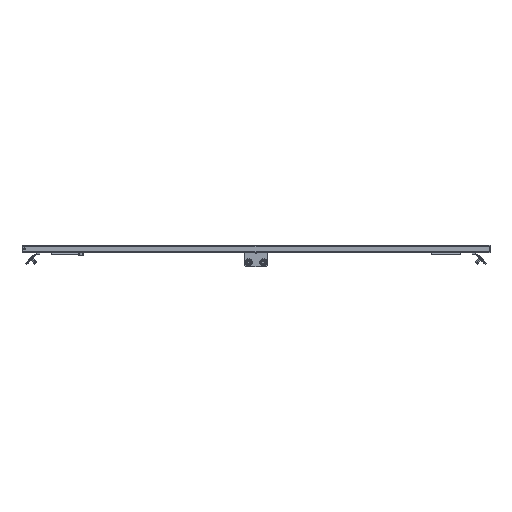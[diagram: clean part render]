
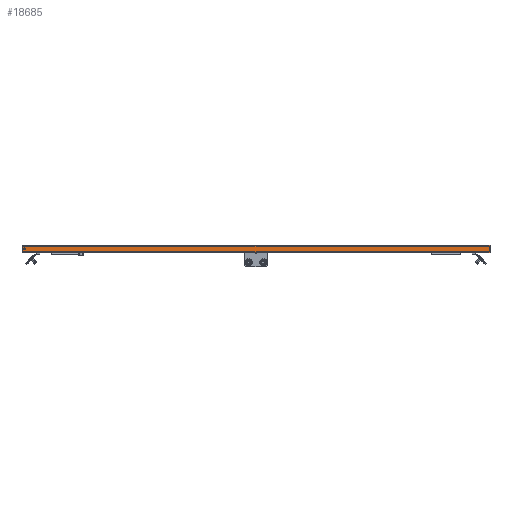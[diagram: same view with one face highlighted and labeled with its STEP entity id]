
A CAD part, front view. The second image highlights one B-rep face of the part: STEP entity #18685.
In plain terms, the highlighted planar face has unit normal (0, -1, 0).
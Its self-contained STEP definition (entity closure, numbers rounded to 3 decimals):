
#2615 = VERTEX_POINT ( 'NONE', #44700 ) ;
#2812 = CARTESIAN_POINT ( 'NONE',  ( 0., -1000., 1.4 ) ) ;
#5660 = EDGE_CURVE ( 'NONE', #14026, #23067, #46839, .T. ) ;
#5679 = DIRECTION ( 'NONE',  ( 0., 0., -1. ) ) ;
#7874 = CARTESIAN_POINT ( 'NONE',  ( -397.5, -1000., -10.6 ) ) ;
#9514 = FACE_OUTER_BOUND ( 'NONE', #41020, .T. ) ;
#9785 = PLANE ( 'NONE',  #41498 ) ;
#10616 = EDGE_LOOP ( 'NONE', ( #29677, #47271 ) ) ;
#10833 = ORIENTED_EDGE ( 'NONE', *, *, #50512, .T. ) ;
#10846 = VERTEX_POINT ( 'NONE', #42824 ) ;
#11509 = CARTESIAN_POINT ( 'NONE',  ( -392.5, -1000., -4.6 ) ) ;
#12179 = CARTESIAN_POINT ( 'NONE',  ( -392.5, -1000., -6.3 ) ) ;
#14026 = VERTEX_POINT ( 'NONE', #7874 ) ;
#14882 = DIRECTION ( 'NONE',  ( 0., 0., -1. ) ) ;
#15117 = DIRECTION ( 'NONE',  ( 0., 0., -1. ) ) ;
#15901 = VERTEX_POINT ( 'NONE', #46609 ) ;
#17842 = CARTESIAN_POINT ( 'NONE',  ( -397.5, -1000., -8.2 ) ) ;
#18624 = LINE ( 'NONE', #17842, #47010 ) ;
#18685 = ADVANCED_FACE ( 'NONE', ( #9514, #30396 ), #9785, .F. ) ;
#19921 = VECTOR ( 'NONE', #15117, 1000. ) ;
#20345 = CIRCLE ( 'NONE', #27197, 1.7 ) ;
#21535 = EDGE_CURVE ( 'NONE', #40460, #2615, #20345, .T. ) ;
#22842 = ORIENTED_EDGE ( 'NONE', *, *, #35241, .F. ) ;
#23067 = VERTEX_POINT ( 'NONE', #44491 ) ;
#24010 = LINE ( 'NONE', #2812, #46773 ) ;
#24097 = DIRECTION ( 'NONE',  ( 0., 0., -1. ) ) ;
#24641 = ORIENTED_EDGE ( 'NONE', *, *, #5660, .T. ) ;
#26074 = DIRECTION ( 'NONE',  ( 0., -1., 0. ) ) ;
#27197 = AXIS2_PLACEMENT_3D ( 'NONE', #42384, #26074, #5679 ) ;
#27273 = EDGE_CURVE ( 'NONE', #10846, #23067, #30927, .T. ) ;
#29277 = VECTOR ( 'NONE', #51366, 1000. ) ;
#29677 = ORIENTED_EDGE ( 'NONE', *, *, #21535, .F. ) ;
#30396 = FACE_BOUND ( 'NONE', #10616, .T. ) ;
#30927 = LINE ( 'NONE', #47245, #19921 ) ;
#33855 = CARTESIAN_POINT ( 'NONE',  ( 0., -1000., -8.2 ) ) ;
#35241 = EDGE_CURVE ( 'NONE', #15901, #10846, #24010, .T. ) ;
#36190 = ORIENTED_EDGE ( 'NONE', *, *, #27273, .F. ) ;
#36568 = DIRECTION ( 'NONE',  ( 1., 0., 0. ) ) ;
#40404 = DIRECTION ( 'NONE',  ( 0., -1., 0. ) ) ;
#40460 = VERTEX_POINT ( 'NONE', #12179 ) ;
#41020 = EDGE_LOOP ( 'NONE', ( #36190, #22842, #10833, #24641 ) ) ;
#41498 = AXIS2_PLACEMENT_3D ( 'NONE', #33855, #50172, #42166 ) ;
#42166 = DIRECTION ( 'NONE',  ( 1., 0., 0. ) ) ;
#42384 = CARTESIAN_POINT ( 'NONE',  ( -392.5, -1000., -4.6 ) ) ;
#42824 = CARTESIAN_POINT ( 'NONE',  ( 397.5, -1000., 1.4 ) ) ;
#44106 = AXIS2_PLACEMENT_3D ( 'NONE', #11509, #40404, #24097 ) ;
#44491 = CARTESIAN_POINT ( 'NONE',  ( 397.5, -1000., -10.6 ) ) ;
#44700 = CARTESIAN_POINT ( 'NONE',  ( -392.5, -1000., -2.9 ) ) ;
#46609 = CARTESIAN_POINT ( 'NONE',  ( -397.5, -1000., 1.4 ) ) ;
#46773 = VECTOR ( 'NONE', #36568, 1000. ) ;
#46839 = LINE ( 'NONE', #47102, #29277 ) ;
#47010 = VECTOR ( 'NONE', #14882, 1000. ) ;
#47102 = CARTESIAN_POINT ( 'NONE',  ( 0., -1000., -10.6 ) ) ;
#47245 = CARTESIAN_POINT ( 'NONE',  ( 397.5, -1000., -8.2 ) ) ;
#47271 = ORIENTED_EDGE ( 'NONE', *, *, #48676, .F. ) ;
#48676 = EDGE_CURVE ( 'NONE', #2615, #40460, #49196, .T. ) ;
#49196 = CIRCLE ( 'NONE', #44106, 1.7 ) ;
#50172 = DIRECTION ( 'NONE',  ( 0., 1., 0. ) ) ;
#50512 = EDGE_CURVE ( 'NONE', #15901, #14026, #18624, .T. ) ;
#51366 = DIRECTION ( 'NONE',  ( 1., 0., 0. ) ) ;
